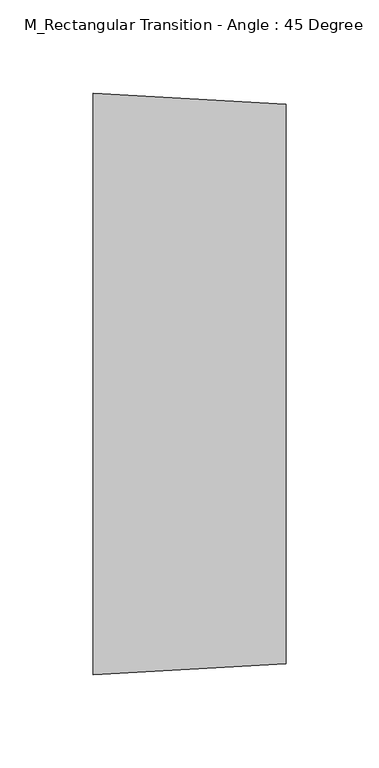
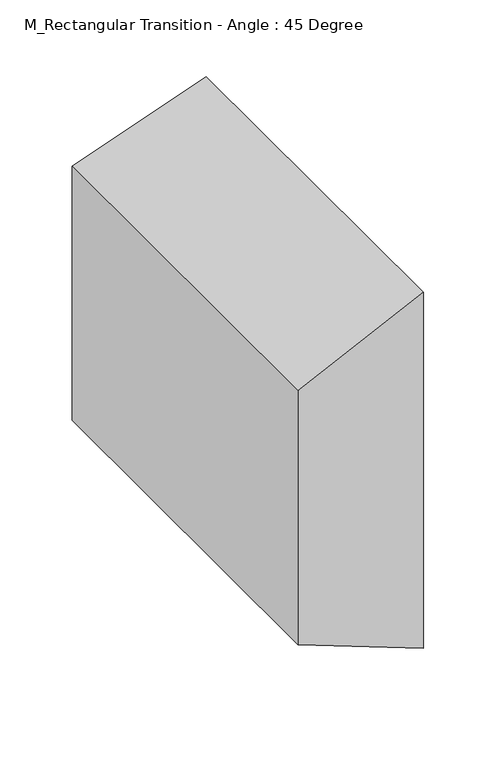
"""IFC4 building model written with IfcOpenShell, lengths in millimetres: duct fitting geometry, M_Rectangular Transition - Angle : 45 Degree."""

from ifc_helpers import new_model, si_unit, origin, place, context, project, spatial, faceted_brep, source, transform, mapped, element, save


def m_rectangular_transition_angle_45_degree_da897c11(model_context):
    return source(origin(), model_context, "Body", "Brep", [
        faceted_brep([(103.4792288, -150.0, 150.0000333), (103.4792288, -150.0, -149.9999667), (103.4792288, 150.0, -149.9999667), (103.4792288, 150.0, 150.0000333), (0.0, -155.9375, 107.1375), (0.0, 155.9375, 107.1375), (0.0, 155.9375, -107.1375), (0.0, -155.9375, -107.1375)], [[[0, 1, 2, 3]], [[4, 5, 6, 7]], [[4, 7, 1, 0]], [[7, 6, 2, 1]], [[6, 5, 3, 2]], [[5, 4, 0, 3]]]),
    ])


if __name__ == "__main__":
    model = new_model("IFC4")
    model_context = context("Model", 3, world=origin())
    ifc_project = project(units=[si_unit("LENGTHUNIT", "METRE", prefix="MILLI")], contexts=[model_context])
    site = spatial("IfcSite", under=ifc_project)
    building = spatial("IfcBuilding", under=site)
    placement = place(None, origin())
    m_rectangular_transition_angle_45_degree_shape = m_rectangular_transition_angle_45_degree_da897c11(model_context)
    element("IfcDuctFitting", 1, ObjectType="M_Rectangular Transition - Angle : 45 Degree", at=placement, inside=building, context=model_context, shape_type="MappedRepresentation", body=[
        mapped(m_rectangular_transition_angle_45_degree_shape, transform((0.0, 0.0, 0.0), x_axis=(1.0, 0.0, 0.0), y_axis=(0.0, 1.0, 0.0), z_axis=(0.0, 0.0, 1.0))),
    ])
    save(model, "model.ifc")
